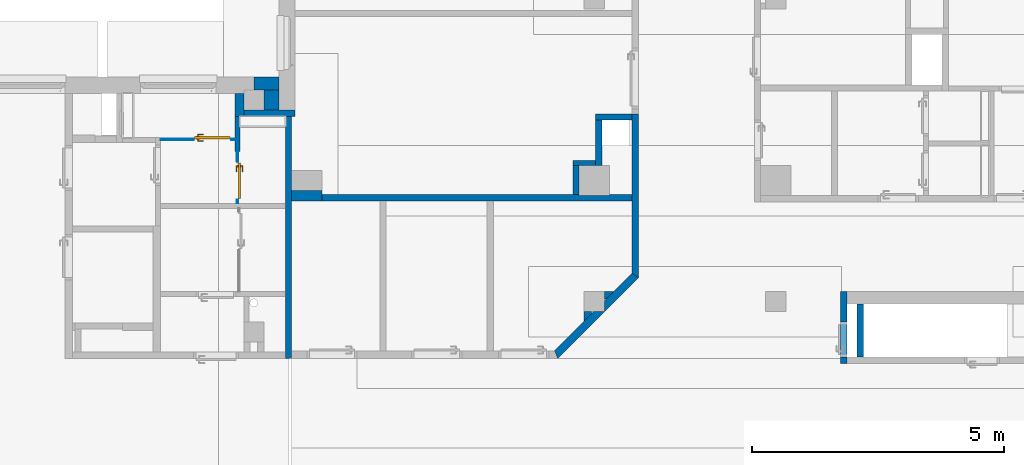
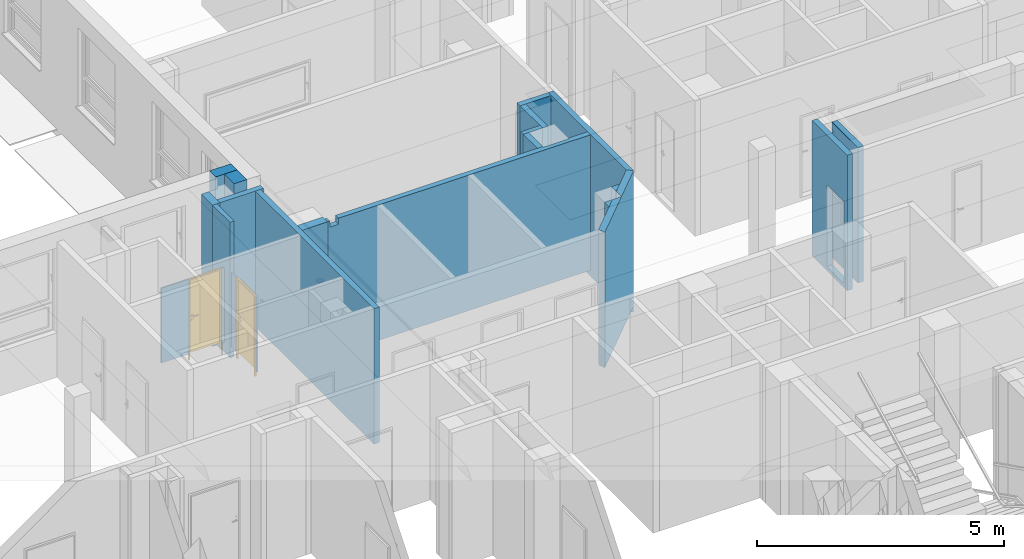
# One storey, part 37 of 140: 20 walls, 2 doors, 4 openings.
"""IFC4 building model written with IfcOpenShell, lengths in metres."""

from ifc_helpers import new_model, entity, si_unit, converted_unit, derived_unit, frame, frame_2d, origin, origin_with_axes, place, context, subcontext, project, spatial, polyline, rectangle, outline, extrude, closed_shell, open_shell, surface_model, source, transform, mapped, material, layer, layer_set, layer_usage, type_object, element, fill, save


model = new_model("IFC4")

# Units and contexts
model_context = context("Model", 3, precision=1e-05, world=origin())
body_context = subcontext(model_context, "Body", "Model", "MODEL_VIEW")
ifc_project = project(units=[si_unit("LENGTHUNIT", "METRE"), si_unit("AREAUNIT", "SQUARE_METRE"), si_unit("VOLUMEUNIT", "CUBIC_METRE"), si_unit("MASSUNIT", "GRAM", prefix="KILO"), converted_unit("PLANEANGLEUNIT", "DEGREE", entity("IfcPlaneAngleMeasure", 0.0174532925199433), si_unit("PLANEANGLEUNIT", "RADIAN"), dimensions=[0, 0, 0, 0, 0, 0, 0]), derived_unit("THERMALTRANSMITTANCEUNIT", [(si_unit("POWERUNIT", "WATT"), 1), (si_unit("THERMODYNAMICTEMPERATUREUNIT", "KELVIN"), -1), (si_unit("LENGTHUNIT", "METRE"), -2)]), derived_unit("VOLUMETRICFLOWRATEUNIT", [(si_unit("LENGTHUNIT", "METRE"), 3), (converted_unit("TIMEUNIT", "hour", entity("IfcTimeMeasure", 3600.0), si_unit("TIMEUNIT", "SECOND"), dimensions=[0, 0, 1, 0, 0, 0, 0]), -1), (si_unit("LENGTHUNIT", "METRE"), -1)])], contexts=[model_context])

# Site, building, storey
site_placement = place(None, origin())
site = spatial("IfcSite", under=ifc_project, at=site_placement, Name="3. ASŘ", CompositionType="ELEMENT")
building_placement = place(site_placement, origin())
building = spatial("IfcBuilding", under=site, at=building_placement, Name="Pavilon C", CompositionType="ELEMENT")
storey_placement = place(building_placement, origin())
storey = spatial("IfcBuildingStorey", under=building, at=storey_placement, Name="Půdorys 1.NP", CompositionType="ELEMENT", Elevation=0.0)

# Walls
ifc_material_1 = material(Name="PÓROBETONOVÉ ZDIVO")
ifc_layer_1 = layer(ifc_material_1, 0.3)
ifc_layer_set_1 = layer_set([ifc_layer_1])
ifc_layer_usage_1 = layer_usage(ifc_layer_set_1, "AXIS2", "POSITIVE", 0.0)
wall_1_placement = place(storey_placement, frame((24.2, 15.0, -0.1), z_axis=(0.0, 0.0, 1.0), x_axis=(0.0, -1.0, 0.0)))
element("IfcWall", 1, at=wall_1_placement, inside=storey, material=ifc_layer_usage_1, Name="PÓROBETONOVÉ ZDIVO", context=body_context, shape_type="SweptSolid", body=[
    extrude(rectangle(XDim=0.4, YDim=0.3, at=frame_2d((0.2, 0.15), x_axis=(1.0, 0.0))), origin_with_axes(), (0.0, 0.0, 1.0), 3.6),
])
ifc_material_2 = material(Name="PÓROBETONOVÉ ZDIVO")
ifc_layer_2 = layer(ifc_material_2, 0.25)
ifc_layer_set_2 = layer_set([ifc_layer_2])
ifc_layer_usage_2 = layer_usage(ifc_layer_set_2, "AXIS2", "POSITIVE", 0.0)
wall_2_placement = place(storey_placement, frame((24.0, 15.0, -0.1)))
element("IfcWall", 2, at=wall_2_placement, inside=storey, material=ifc_layer_usage_2, Name="PÓROBETONOVÉ ZDIVO", context=body_context, shape_type="SweptSolid", body=[
    extrude(rectangle(XDim=0.500000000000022, YDim=0.25, at=frame_2d((0.250000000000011, 0.125), x_axis=(1.0, 0.0))), origin_with_axes(), (0.0, 0.0, 1.0), 3.6),
])
ifc_material_3 = material(Name="ZDIVO Z CDm")
ifc_layer_3 = layer(ifc_material_3, 0.125)
ifc_layer_set_3 = layer_set([ifc_layer_3])
ifc_layer_usage_3 = layer_usage(ifc_layer_set_3, "AXIS2", "POSITIVE", 0.0)
wall_3_placement = place(storey_placement, frame((24.82, 14.6, -0.1), z_axis=(0.0, 0.0, 1.0), x_axis=(-1.0, 0.0, 0.0)))
element("IfcWall", 3, at=wall_3_placement, inside=storey, material=ifc_layer_usage_3, Name="ZDIVO Z CDm", context=body_context, shape_type="SweptSolid", body=[
    extrude(rectangle(XDim=1.01999999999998, YDim=0.125, at=frame_2d((0.509999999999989, 0.0625), x_axis=(1.0, 0.0))), origin_with_axes(), (0.0, 0.0, 1.0), 3.35),
])
ifc_material_4 = material(Name="ZDIVO Z CDm")
ifc_layer_4 = layer(ifc_material_4, 0.125)
ifc_layer_set_4 = layer_set([ifc_layer_4])
ifc_layer_usage_4 = layer_usage(ifc_layer_set_4, "AXIS2", "POSITIVE", 0.0)
wall_4_placement = place(storey_placement, frame((24.75, 9.675, -0.1), z_axis=(0.0, 0.0, 1.0), x_axis=(0.0, 1.0, 0.0)))
element("IfcWall", 4, at=wall_4_placement, inside=storey, material=ifc_layer_usage_4, Name="ZDIVO Z CDm", context=body_context, shape_type="SweptSolid", body=[
    extrude(rectangle(XDim=4.8, YDim=0.125, at=frame_2d((2.4, 0.0625), x_axis=(1.0, 0.0))), origin_with_axes(), (0.0, 0.0, 1.0), 3.35),
])
ifc_material_5 = material(Name="YTONG 100")
ifc_layer_5 = layer(ifc_material_5, 0.1)
ifc_layer_set_5 = layer_set([ifc_layer_5])
ifc_layer_usage_5 = layer_usage(ifc_layer_set_5, "AXIS2", "POSITIVE", 0.0)
wall_5_placement = place(storey_placement, frame((23.725, 13.775, -0.1), z_axis=(0.0, 0.0, 1.0), x_axis=(0.0, 1.0, 0.0)))
element("IfcWall", 5, at=wall_5_placement, inside=storey, material=ifc_layer_usage_5, Name="YTONG 100", context=body_context, shape_type="SweptSolid", body=[
    extrude(rectangle(XDim=0.7, YDim=0.1, at=frame_2d((0.35, 0.05), x_axis=(1.0, 0.0))), origin_with_axes(), (0.0, 0.0, 1.0), 3.35),
])
ifc_material_6 = material(Name="YTONG")
ifc_layer_6 = layer(ifc_material_6, 0.175)
ifc_layer_set_6 = layer_set([ifc_layer_6])
ifc_layer_usage_6 = layer_usage(ifc_layer_set_6, "AXIS2", "POSITIVE", 0.0)
wall_6_placement = place(storey_placement, frame((23.625, 14.93, -0.25), z_axis=(0.0, 0.0, 1.0), x_axis=(0.0, -1.0, 0.0)))
element("IfcWall", 6, at=wall_6_placement, inside=storey, material=ifc_layer_usage_6, Name="YTONG", context=body_context, shape_type="SweptSolid", body=[
    extrude(rectangle(XDim=0.455000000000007, YDim=0.175, at=frame_2d((0.227500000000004, 0.0875), x_axis=(1.0, 0.0))), origin_with_axes(), (0.0, 0.0, 1.0), 3.5),
])

# Wall, opening, door
ifc_material_7 = material(Name="SANITÁRNÍ WC PŘÍČKA")
ifc_layer_7 = layer(ifc_material_7, 0.032)
ifc_layer_set_7 = layer_set([ifc_layer_7])
ifc_layer_usage_7 = layer_usage(ifc_layer_set_7, "AXIS2", "POSITIVE", -0.016)
wall_7_placement = place(storey_placement, frame((23.659, 13.775, 0.15), z_axis=(0.0, 0.0, 1.0), x_axis=(0.0, -1.0, 0.0)))
wall_7 = element("IfcWall", 7, at=wall_7_placement, inside=storey, material=ifc_layer_usage_7, Name="SANITARNI WC PRICKA", context=body_context, shape_type="SweptSolid", body=[
    extrude(rectangle(XDim=1.02499999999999, YDim=0.032, at=frame_2d((0.512499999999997, 0.016), x_axis=(1.0, 0.0))), origin_with_axes(), (0.0, 0.0, 1.0), 1.85),
])
opening_1_placement = place(wall_7_placement, frame((0.954999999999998, 0.032, -0.15), z_axis=(0.0, -1.0, 0.0), x_axis=(0.0, 0.0, 1.0)))
opening_1 = element("IfcOpeningElement", 8, at=opening_1_placement, cuts=wall_7, Name="Dveřní otvor", ObjectType="Opening", context=body_context, shape_type="SweptSolid", body=[
    extrude(outline(polyline([(0.0, 0.76), (2.0, 0.76), (2.0, 0.0), (0.0, 0.0), (0.0, 0.76)])), origin_with_axes(), (0.0, 0.0, 1.0), 0.032),
])
door_type_1 = type_object("IfcDoorType", Name="D101", OperationType="NOTDEFINED", ParameterTakesPrecedence=False, PredefinedType="DOOR")
shared_shape = source(origin_with_axes(), body_context, "Body", "SurfaceModel", [
    surface_model("IfcShellBasedSurfaceModel", [(0.0, 0.0500000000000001, 2.0), (0.0, 0.0499999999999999, -1.95943487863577e-18), (0.03, 0.0499999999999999, -1.95943487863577e-18), (0.03, 0.0500000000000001, 2.0), (0.0, 0.0179999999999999, 1.95943487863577e-18), (0.0, 0.0180000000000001, 2.0), (0.03, 0.0180000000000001, 2.0), (0.03, 0.0179999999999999, 1.95943487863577e-18)], [closed_shell([[[0, 1, 2, 3]], [[4, 5, 6, 7]], [[1, 0, 5, 4]], [[2, 1, 4, 7]], [[3, 2, 7, 6]], [[0, 3, 6, 5]]], orient=[[False], [False], [False], [False], [False], [False]])]),
    surface_model("IfcShellBasedSurfaceModel", [(0.73, 0.0500000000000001, 2.0), (0.73, 0.0499999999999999, -1.95943487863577e-18), (0.76, 0.0499999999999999, -1.95943487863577e-18), (0.76, 0.0500000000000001, 2.0), (0.73, 0.0179999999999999, 1.95943487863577e-18), (0.73, 0.0180000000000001, 2.0), (0.76, 0.0180000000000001, 2.0), (0.76, 0.0179999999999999, 1.95943487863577e-18)], [closed_shell([[[0, 1, 2, 3]], [[4, 5, 6, 7]], [[1, 0, 5, 4]], [[2, 1, 4, 7]], [[3, 2, 7, 6]], [[0, 3, 6, 5]]], orient=[[False], [False], [False], [False], [False], [False]])]),
    surface_model("IfcShellBasedSurfaceModel", [(0.03, 0.0500000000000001, 2.0), (0.03, 0.0500000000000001, 1.97), (0.73, 0.0500000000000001, 1.97), (0.73, 0.0500000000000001, 2.0), (0.03, 0.0180000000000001, 1.97), (0.03, 0.0180000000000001, 2.0), (0.73, 0.0180000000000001, 2.0), (0.73, 0.0180000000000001, 1.97)], [closed_shell([[[0, 1, 2, 3]], [[4, 5, 6, 7]], [[1, 0, 5, 4]], [[2, 1, 4, 7]], [[3, 2, 7, 6]], [[0, 3, 6, 5]]], orient=[[False], [False], [False], [False], [False], [False]])]),
    surface_model("IfcShellBasedSurfaceModel", [(0.03, 0.0900000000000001, 1.97), (0.03, 0.0899999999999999, 0.15), (0.73, 0.0899999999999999, 0.15), (0.73, 0.0900000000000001, 1.97), (0.03, 0.0499999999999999, 0.15), (0.03, 0.0500000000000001, 1.97), (0.73, 0.0500000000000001, 1.97), (0.73, 0.0499999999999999, 0.15)], [closed_shell([[[0, 1, 2, 3]], [[4, 5, 6, 7]], [[1, 0, 5, 4]], [[2, 1, 4, 7]], [[3, 2, 7, 6]], [[0, 3, 6, 5]]], orient=[[False], [False], [False], [False], [False], [False]])]),
    surface_model("IfcShellBasedSurfaceModel", [(0.688815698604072, 0.05, 0.93625), (0.6925, 0.05, 0.95), (0.688815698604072, 0.05, 0.96375), (0.67875, 0.05, 0.973815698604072), (0.665, 0.05, 0.9775), (0.65125, 0.05, 0.973815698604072), (0.641184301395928, 0.05, 0.96375), (0.6375, 0.05, 0.95), (0.641184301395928, 0.05, 0.93625), (0.65125, 0.05, 0.926184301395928), (0.665, 0.05, 0.9225), (0.67875, 0.05, 0.926184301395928), (0.6925, 0.0375, 0.95), (0.688815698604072, 0.0375, 0.93625), (0.67875, 0.0375, 0.926184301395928), (0.665, 0.0375, 0.9225), (0.65125, 0.0375, 0.926184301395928), (0.641184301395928, 0.0375, 0.93625), (0.6375, 0.0375, 0.95), (0.641184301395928, 0.0375, 0.96375), (0.65125, 0.0375, 0.973815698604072), (0.665, 0.0375, 0.9775), (0.67875, 0.0375, 0.973815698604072), (0.688815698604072, 0.0375, 0.96375)], [closed_shell([[[0, 1, 2, 3, 4, 5, 6, 7, 8, 9, 10, 11]], [[12, 13, 14, 15, 16, 17, 18, 19, 20, 21, 22, 23]], [[1, 0, 13, 12]], [[2, 1, 12, 23]], [[3, 2, 23, 22]], [[4, 3, 22, 21]], [[5, 4, 21, 20]], [[6, 5, 20, 19]], [[7, 6, 19, 18]], [[8, 7, 18, 17]], [[9, 8, 17, 16]], [[10, 9, 16, 15]], [[11, 10, 15, 14]], [[0, 11, 14, 13]]], orient=[[False], [False], [False], [False], [False], [False], [False], [False], [False], [False], [False], [False], [False], [False]])]),
    surface_model("IfcShellBasedSurfaceModel", [(0.688815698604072, 0.05, 1.03625), (0.6925, 0.05, 1.05), (0.688815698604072, 0.05, 1.06375), (0.67875, 0.05, 1.07381569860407), (0.665, 0.05, 1.0775), (0.65125, 0.05, 1.07381569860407), (0.641184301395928, 0.05, 1.06375), (0.6375, 0.05, 1.05), (0.641184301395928, 0.05, 1.03625), (0.65125, 0.05, 1.02618430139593), (0.665, 0.05, 1.0225), (0.67875, 0.05, 1.02618430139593), (0.6925, 0.0375, 1.05), (0.688815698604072, 0.0375, 1.03625), (0.67875, 0.0375, 1.02618430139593), (0.665, 0.0375, 1.0225), (0.65125, 0.0375, 1.02618430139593), (0.641184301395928, 0.0375, 1.03625), (0.6375, 0.0375, 1.05), (0.641184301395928, 0.0375, 1.06375), (0.65125, 0.0375, 1.07381569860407), (0.665, 0.0375, 1.0775), (0.67875, 0.0375, 1.07381569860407), (0.688815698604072, 0.0375, 1.06375)], [closed_shell([[[0, 1, 2, 3, 4, 5, 6, 7, 8, 9, 10, 11]], [[12, 13, 14, 15, 16, 17, 18, 19, 20, 21, 22, 23]], [[1, 0, 13, 12]], [[2, 1, 12, 23]], [[3, 2, 23, 22]], [[4, 3, 22, 21]], [[5, 4, 21, 20]], [[6, 5, 20, 19]], [[7, 6, 19, 18]], [[8, 7, 18, 17]], [[9, 8, 17, 16]], [[10, 9, 16, 15]], [[11, 10, 15, 14]], [[0, 11, 14, 13]]], orient=[[False], [False], [False], [False], [False], [False], [False], [False], [False], [False], [False], [False], [False], [False]])]),
    surface_model("IfcShellBasedSurfaceModel", [(0.665, 0.05, 1.06), (0.66, 0.05, 1.05866025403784), (0.656339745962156, 0.05, 1.055), (0.655, 0.05, 1.05), (0.656339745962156, 0.05, 1.045), (0.66, 0.05, 1.04133974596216), (0.665, 0.05, 1.04), (0.67, 0.05, 1.04133974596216), (0.673660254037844, 0.05, 1.045), (0.675, 0.05, 1.05), (0.673660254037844, 0.05, 1.055), (0.67, 0.05, 1.05866025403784), (0.67, 0.00500000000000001, 1.05866025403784), (0.665, 0.01, 1.06), (0.673660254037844, 0.00133974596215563, 1.055), (0.675, 1.4210854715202e-17, 1.05), (0.673660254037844, 0.00133974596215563, 1.045), (0.67, 0.00500000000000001, 1.04133974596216), (0.665, 0.01, 1.04), (0.66, 0.015, 1.04133974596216), (0.656339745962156, 0.0186602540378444, 1.045), (0.655, 0.02, 1.05), (0.656339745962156, 0.0186602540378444, 1.055), (0.66, 0.015, 1.05866025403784), (0.55, 0.005, 1.05866025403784), (0.55, 0.01, 1.06), (0.55, 0.00133974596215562, 1.055), (0.55, 0.0, 1.05), (0.55, 0.00133974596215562, 1.045), (0.55, 0.005, 1.04133974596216), (0.55, 0.01, 1.04), (0.55, 0.015, 1.04133974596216), (0.55, 0.0186602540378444, 1.045), (0.55, 0.02, 1.05), (0.55, 0.0186602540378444, 1.055), (0.55, 0.015, 1.05866025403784)], [open_shell([[[0, 1, 2, 3, 4, 5, 6, 7, 8, 9, 10, 11]], [[0, 11, 12, 13]], [[11, 10, 14, 12]], [[10, 9, 15, 14]], [[9, 8, 16, 15]], [[8, 7, 17, 16]], [[7, 6, 18, 17]], [[6, 5, 19, 18]], [[5, 4, 20, 19]], [[4, 3, 21, 20]], [[3, 2, 22, 21]], [[2, 1, 23, 22]], [[1, 0, 13, 23]], [[13, 12, 24, 25]], [[12, 14, 26, 24]], [[14, 15, 27, 26]], [[15, 16, 28, 27]], [[16, 17, 29, 28]], [[17, 18, 30, 29]], [[18, 19, 31, 30]], [[19, 20, 32, 31]], [[20, 21, 33, 32]], [[21, 22, 34, 33]], [[22, 23, 35, 34]], [[23, 13, 25, 35]]], orient=[[False], [False], [False], [False], [False], [False], [False], [False], [False], [False], [False], [False], [False], [False], [False], [False], [False], [False], [False], [False], [False], [False], [False], [False], [False]])]),
    surface_model("IfcShellBasedSurfaceModel", [(0.688815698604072, 0.09, 0.93625), (0.67875, 0.09, 0.926184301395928), (0.665, 0.09, 0.9225), (0.65125, 0.09, 0.926184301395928), (0.641184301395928, 0.09, 0.93625), (0.6375, 0.09, 0.95), (0.641184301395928, 0.09, 0.96375), (0.65125, 0.09, 0.973815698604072), (0.665, 0.09, 0.9775), (0.67875, 0.09, 0.973815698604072), (0.688815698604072, 0.09, 0.96375), (0.6925, 0.09, 0.95), (0.6925, 0.1025, 0.95), (0.688815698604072, 0.1025, 0.96375), (0.67875, 0.1025, 0.973815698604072), (0.665, 0.1025, 0.9775), (0.65125, 0.1025, 0.973815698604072), (0.641184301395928, 0.1025, 0.96375), (0.6375, 0.1025, 0.95), (0.641184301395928, 0.1025, 0.93625), (0.65125, 0.1025, 0.926184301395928), (0.665, 0.1025, 0.9225), (0.67875, 0.1025, 0.926184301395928), (0.688815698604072, 0.1025, 0.93625)], [closed_shell([[[0, 1, 2, 3, 4, 5, 6, 7, 8, 9, 10, 11]], [[12, 13, 14, 15, 16, 17, 18, 19, 20, 21, 22, 23]], [[11, 12, 23, 0]], [[10, 13, 12, 11]], [[9, 14, 13, 10]], [[8, 15, 14, 9]], [[7, 16, 15, 8]], [[6, 17, 16, 7]], [[5, 18, 17, 6]], [[4, 19, 18, 5]], [[3, 20, 19, 4]], [[2, 21, 20, 3]], [[1, 22, 21, 2]], [[0, 23, 22, 1]]], orient=[[False], [False], [False], [False], [False], [False], [False], [False], [False], [False], [False], [False], [False], [False]])]),
    surface_model("IfcShellBasedSurfaceModel", [(0.688815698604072, 0.09, 1.03625), (0.67875, 0.09, 1.02618430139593), (0.665, 0.09, 1.0225), (0.65125, 0.09, 1.02618430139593), (0.641184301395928, 0.09, 1.03625), (0.6375, 0.09, 1.05), (0.641184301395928, 0.09, 1.06375), (0.65125, 0.09, 1.07381569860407), (0.665, 0.09, 1.0775), (0.67875, 0.09, 1.07381569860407), (0.688815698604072, 0.09, 1.06375), (0.6925, 0.09, 1.05), (0.6925, 0.1025, 1.05), (0.688815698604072, 0.1025, 1.06375), (0.67875, 0.1025, 1.07381569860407), (0.665, 0.1025, 1.0775), (0.65125, 0.1025, 1.07381569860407), (0.641184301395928, 0.1025, 1.06375), (0.6375, 0.1025, 1.05), (0.641184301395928, 0.1025, 1.03625), (0.65125, 0.1025, 1.02618430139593), (0.665, 0.1025, 1.0225), (0.67875, 0.1025, 1.02618430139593), (0.688815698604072, 0.1025, 1.03625)], [closed_shell([[[0, 1, 2, 3, 4, 5, 6, 7, 8, 9, 10, 11]], [[12, 13, 14, 15, 16, 17, 18, 19, 20, 21, 22, 23]], [[11, 12, 23, 0]], [[10, 13, 12, 11]], [[9, 14, 13, 10]], [[8, 15, 14, 9]], [[7, 16, 15, 8]], [[6, 17, 16, 7]], [[5, 18, 17, 6]], [[4, 19, 18, 5]], [[3, 20, 19, 4]], [[2, 21, 20, 3]], [[1, 22, 21, 2]], [[0, 23, 22, 1]]], orient=[[False], [False], [False], [False], [False], [False], [False], [False], [False], [False], [False], [False], [False], [False]])]),
    surface_model("IfcShellBasedSurfaceModel", [(0.665, 0.09, 1.06), (0.67, 0.09, 1.05866025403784), (0.673660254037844, 0.09, 1.055), (0.675, 0.09, 1.05), (0.673660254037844, 0.09, 1.045), (0.67, 0.09, 1.04133974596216), (0.665, 0.09, 1.04), (0.66, 0.09, 1.04133974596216), (0.656339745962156, 0.09, 1.045), (0.655, 0.09, 1.05), (0.656339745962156, 0.09, 1.055), (0.66, 0.09, 1.05866025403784), (0.665, 0.13, 1.06), (0.67, 0.135, 1.05866025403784), (0.673660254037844, 0.138660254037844, 1.055), (0.675, 0.14, 1.05), (0.673660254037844, 0.138660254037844, 1.045), (0.67, 0.135, 1.04133974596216), (0.665, 0.13, 1.04), (0.66, 0.125, 1.04133974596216), (0.656339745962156, 0.121339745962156, 1.045), (0.655, 0.12, 1.05), (0.656339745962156, 0.121339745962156, 1.055), (0.66, 0.125, 1.05866025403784), (0.55, 0.13, 1.06), (0.55, 0.135, 1.05866025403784), (0.55, 0.138660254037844, 1.055), (0.55, 0.14, 1.05), (0.55, 0.138660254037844, 1.045), (0.55, 0.135, 1.04133974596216), (0.55, 0.13, 1.04), (0.55, 0.125, 1.04133974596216), (0.55, 0.121339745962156, 1.045), (0.55, 0.12, 1.05), (0.55, 0.121339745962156, 1.055), (0.55, 0.125, 1.05866025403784)], [open_shell([[[0, 1, 2, 3, 4, 5, 6, 7, 8, 9, 10, 11]], [[0, 12, 13, 1]], [[1, 13, 14, 2]], [[2, 14, 15, 3]], [[3, 15, 16, 4]], [[4, 16, 17, 5]], [[5, 17, 18, 6]], [[6, 18, 19, 7]], [[7, 19, 20, 8]], [[8, 20, 21, 9]], [[9, 21, 22, 10]], [[10, 22, 23, 11]], [[11, 23, 12, 0]], [[12, 24, 25, 13]], [[13, 25, 26, 14]], [[14, 26, 27, 15]], [[15, 27, 28, 16]], [[16, 28, 29, 17]], [[17, 29, 30, 18]], [[18, 30, 31, 19]], [[19, 31, 32, 20]], [[20, 32, 33, 21]], [[21, 33, 34, 22]], [[22, 34, 35, 23]], [[23, 35, 24, 12]]], orient=[[False], [False], [False], [False], [False], [False], [False], [False], [False], [False], [False], [False], [False], [False], [False], [False], [False], [False], [False], [False], [False], [False], [False], [False], [False]])]),
])
door_1_placement = place(opening_1_placement, frame((0.0, -3.63797880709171e-15, 0.0500000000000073), z_axis=(1.0, 0.0, 0.0), x_axis=(0.0, 1.0, -2.44929359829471e-16)))
door_1 = element("IfcDoor", 9, at=door_1_placement, inside=storey, type_object=door_type_1, Name="D101", OverallHeight=2.0, OverallWidth=0.76, context=body_context, shape_type="MappedRepresentation", body=[
    mapped(shared_shape, transform((0.0, 0.0, 0.0), x_axis=(1.0, 0.0, 0.0), y_axis=(0.0, -1.0, 0.0), z_axis=(0.0, 0.0, 1.0), scale=1.0)),
])
fill(opening_1, door_1)

ifc_material_8 = material(Name="SANITÁRNÍ WC PŘÍČKA")
ifc_layer_8 = layer(ifc_material_8, 0.032)
ifc_layer_set_8 = layer_set([ifc_layer_8])
ifc_layer_usage_8 = layer_usage(ifc_layer_set_8, "AXIS2", "POSITIVE", 0.0)
wall_8_placement = place(storey_placement, frame((23.625, 14.03, 0.15), z_axis=(0.0, 0.0, 1.0), x_axis=(-1.0, 0.0, 0.0)))
wall_8 = element("IfcWall", 10, at=wall_8_placement, inside=storey, material=ifc_layer_usage_8, Name="SANITARNI WC PRICKA", context=body_context, shape_type="SweptSolid", body=[
    extrude(rectangle(XDim=1.47499999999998, YDim=0.032, at=frame_2d((0.737499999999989, 0.016), x_axis=(1.0, 0.0))), origin_with_axes(), (0.0, 0.0, 1.0), 1.85),
])
opening_2_placement = place(wall_8_placement, frame((0.07, 0.0, -0.15), z_axis=(0.0, 1.0, 0.0), x_axis=(0.0, 0.0, 1.0)))
opening_2 = element("IfcOpeningElement", 11, at=opening_2_placement, cuts=wall_8, Name="Dveřní otvor", ObjectType="Opening", context=body_context, shape_type="SweptSolid", body=[
    extrude(outline(polyline([(0.0, 0.76), (2.0, 0.76), (2.0, 0.0), (0.0, 0.0), (0.0, 0.76)])), origin_with_axes(), (0.0, 0.0, 1.0), 0.032),
])
door_type_2 = type_object("IfcDoorType", Name="D101", OperationType="NOTDEFINED", ParameterTakesPrecedence=False, PredefinedType="DOOR")
door_2_placement = place(opening_2_placement, frame((0.0, 0.0, 0.05), z_axis=(1.0, 0.0, 0.0), x_axis=(0.0, 1.0, -2.44929359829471e-16)))
door_2 = element("IfcDoor", 12, at=door_2_placement, inside=storey, type_object=door_type_2, Name="D101", OverallHeight=2.0, OverallWidth=0.76, context=body_context, shape_type="MappedRepresentation", body=[
    mapped(shared_shape, transform((0.0, 0.0, 0.0), x_axis=(1.0, 0.0, 0.0), y_axis=(0.0, -1.0, 0.0), z_axis=(0.0, 0.0, 1.0), scale=1.0)),
])
fill(opening_2, door_2)

# Wall
ifc_material_9 = material(Name="ZDIVO Z CDm")
ifc_layer_9 = layer(ifc_material_9, 0.2)
ifc_layer_set_9 = layer_set([ifc_layer_9])
ifc_layer_usage_9 = layer_usage(ifc_layer_set_9, "AXIS2", "POSITIVE", 0.0)
wall_9_placement = place(storey_placement, frame((25.35, 13.0, -0.1), z_axis=(0.0, 0.0, 1.0), x_axis=(-1.0, 0.0, 0.0)))
element("IfcWall", 13, at=wall_9_placement, inside=storey, material=ifc_layer_usage_9, Name="ZDIVO Z CDm", context=body_context, shape_type="SweptSolid", body=[
    extrude(rectangle(XDim=0.6, YDim=0.2, at=frame_2d((0.3, 0.1), x_axis=(1.0, 0.0))), origin_with_axes(), (0.0, 0.0, 1.0), 3.35),
])

# Wall, opening
ifc_material_10 = material(Name="ZDIVO Z CDm")
ifc_layer_10 = layer(ifc_material_10, 0.125)
ifc_layer_set_10 = layer_set([ifc_layer_10])
ifc_layer_usage_10 = layer_usage(ifc_layer_set_10, "AXIS2", "POSITIVE", 0.0)
wall_10_placement = place(storey_placement, frame((31.5, 12.925, -0.1), z_axis=(0.0, 0.0, 1.0), x_axis=(-1.0, 0.0, 0.0)))
wall_10 = element("IfcWall", 14, at=wall_10_placement, inside=storey, material=ifc_layer_usage_10, Name="ZDIVO Z CDm", context=body_context, shape_type="SweptSolid", body=[
    extrude(outline(polyline([(-5.1, -0.125), (0.0, -0.125), (0.0, 0.0), (-6.15, 0.0), (-6.15, -0.125), (-5.7, -0.125), (-5.7, -0.1), (-5.1, -0.1), (-5.1, -0.125)])), frame((6.15, 0.125, 0.0), z_axis=(0.0, 0.0, 1.0), x_axis=(1.0, 0.0, 0.0)), (0.0, 0.0, 1.0), 3.35),
])
opening_3_placement = place(wall_10_placement, frame((5.9, 0.0, 3.2), z_axis=(0.0, 1.0, 0.0), x_axis=(0.0, 0.0, 1.0)))
element("IfcOpeningElement", 15, at=opening_3_placement, cuts=wall_10, Name="CHL", ObjectType="Opening", context=body_context, shape_type="SweptSolid", body=[
    extrude(outline(polyline([(0.0, 0.2), (0.15, 0.2), (0.15, 0.0), (0.0, 0.0), (0.0, 0.2)])), origin_with_axes(), (0.0, 0.0, 1.0), 0.125),
])

ifc_material_11 = material(Name="ZDIVO Z CDm")
ifc_layer_11 = layer(ifc_material_11, 0.125)
ifc_layer_set_11 = layer_set([ifc_layer_11])
ifc_layer_usage_11 = layer_usage(ifc_layer_set_11, "AXIS2", "POSITIVE", 0.0)
wall_11_placement = place(storey_placement, frame((35.7625, 9.57499999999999, -0.1), z_axis=(0.0, 0.0, 1.0), x_axis=(0.0, 1.0, 0.0)))
wall_11 = element("IfcWall", 16, at=wall_11_placement, inside=storey, material=ifc_layer_usage_11, Name="ZDIVO Z CDm", context=body_context, shape_type="SweptSolid", body=[
    extrude(rectangle(XDim=1.425, YDim=0.125, at=frame_2d((0.7125, 0.0625), x_axis=(1.0, 0.0))), origin_with_axes(), (0.0, 0.0, 1.0), 3.35),
])
opening_4_placement = place(wall_11_placement, frame((0.824999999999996, 0.125, 0.1), z_axis=(0.0, -1.0, 0.0), x_axis=(0.0, 0.0, 1.0)))
element("IfcOpeningElement", 17, at=opening_4_placement, cuts=wall_11, Name="Dveřní otvor", ObjectType="Opening", context=body_context, shape_type="SweptSolid", body=[
    extrude(outline(polyline([(0.0, 0.7), (2.02, 0.7), (2.02, 0.0), (0.0, 0.0), (0.0, 0.7)])), origin_with_axes(), (0.0, 0.0, 1.0), 0.125),
])

# Walls
ifc_material_12 = material(Name="ZDIVO Z CDm")
ifc_layer_12 = layer(ifc_material_12, 0.125)
ifc_layer_set_12 = layer_set([ifc_layer_12])
ifc_layer_usage_12 = layer_usage(ifc_layer_set_12, "AXIS2", "POSITIVE", 0.0)
wall_12_placement = place(storey_placement, frame((35.9625, 10.75, -0.1), z_axis=(0.0, 0.0, 1.0), x_axis=(0.0, -1.0, 0.0)))
element("IfcWall", 18, at=wall_12_placement, inside=storey, material=ifc_layer_usage_12, Name="ZDIVO Z CDm", context=body_context, shape_type="SweptSolid", body=[
    extrude(rectangle(XDim=1.05, YDim=0.125, at=frame_2d((0.525, 0.0625), x_axis=(1.0, 0.0))), origin_with_axes(), (0.0, 0.0, 1.0), 3.35),
])
ifc_material_13 = material(Name="YTONG 150")
wall_13_placement = place(storey_placement, frame((30.025, 9.675, -0.1), z_axis=(0.0, 0.0, 1.0), x_axis=(0.707106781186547, 0.707106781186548, 0.0)))
element("IfcWall", 19, at=wall_13_placement, inside=storey, material=ifc_material_13, Name="YTONG 150", context=body_context, shape_type="SweptSolid", body=[
    extrude(outline(polyline([(0.0439339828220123, -0.0439339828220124), (1.35208152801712, -0.0439339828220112), (1.20208152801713, 0.106066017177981), (0.106066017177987, 0.106066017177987), (0.0439339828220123, -0.0439339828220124)])), frame((-0.0439339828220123, 0.0439339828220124, 0.0), z_axis=(0.0, 0.0, 1.0), x_axis=(1.0, 0.0, 0.0)), (0.0, 0.0, 1.0), 3.35),
    extrude(outline(polyline([(0.149999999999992, 0.149999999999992), (0.0, 0.0), (0.954594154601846, 2.27373675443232e-16), (0.927817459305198, 0.14999999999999), (0.149999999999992, 0.149999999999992)])), frame((1.30814754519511, -2.27373675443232e-16, 0.0), z_axis=(0.0, 0.0, 1.0), x_axis=(1.0, 0.0, 0.0)), (0.0, 0.0, 1.0), 3.35),
])
ifc_material_14 = material(Name="YTONG 150")
ifc_layer_13 = layer(ifc_material_14, 0.149999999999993)
ifc_layer_set_13 = layer_set([ifc_layer_13])
ifc_layer_usage_13 = layer_usage(ifc_layer_set_13, "AXIS2", "POSITIVE", 0.0)
wall_14_placement = place(storey_placement, frame((31.137867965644, 11.0, -0.1), z_axis=(0.0, 0.0, 1.0), x_axis=(-1.0, 0.0, 0.0)))
element("IfcWall", 20, at=wall_14_placement, inside=storey, material=ifc_layer_usage_13, Name="YTONG 150", context=body_context, shape_type="SweptSolid", body=[
    extrude(outline(polyline([(-0.187867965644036, -0.149999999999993), (0.0, -0.149999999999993), (0.0, 0.0), (-0.0378679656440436, 0.0), (-0.187867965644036, -0.149999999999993)])), frame((0.187867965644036, 0.149999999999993, 0.0), z_axis=(0.0, 0.0, 1.0), x_axis=(1.0, 0.0, 0.0)), (0.0, 0.0, 1.0), 3.35),
])
ifc_material_15 = material(Name="YTONG 150")
ifc_layer_14 = layer(ifc_material_15, 0.149999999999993)
ifc_layer_set_14 = layer_set([ifc_layer_14])
ifc_layer_usage_14 = layer_usage(ifc_layer_set_14, "AXIS2", "POSITIVE", 0.0)
wall_15_placement = place(storey_placement, frame((30.55, 10.6, -0.1), z_axis=(0.0, 0.0, 1.0), x_axis=(1.93645510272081e-14, -1.0, 0.0)))
element("IfcWall", 21, at=wall_15_placement, inside=storey, material=ifc_layer_usage_14, Name="YTONG 150", context=body_context, shape_type="SweptSolid", body=[
    extrude(outline(polyline([(-0.187867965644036, 3.63797880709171e-15), (7.0447826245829e-29, 3.63797880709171e-15), (-0.149999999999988, 0.149999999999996), (-0.187867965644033, 0.149999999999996), (-0.187867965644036, 3.63797880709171e-15)])), frame((0.187867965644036, -3.63797880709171e-15, 0.0), z_axis=(0.0, 0.0, 1.0), x_axis=(1.0, 0.0, 0.0)), (0.0, 0.0, 1.0), 3.35),
])
ifc_material_16 = material(Name="ZDIVO Z CDm")
ifc_layer_15 = layer(ifc_material_16, 0.125)
ifc_layer_set_15 = layer_set([ifc_layer_15])
ifc_layer_usage_15 = layer_usage(ifc_layer_set_15, "AXIS2", "POSITIVE", 0.0)
wall_16_placement = place(storey_placement, frame((30.775, 14.4, -0.1)))
element("IfcWall", 22, at=wall_16_placement, inside=storey, material=ifc_layer_usage_15, Name="ZDIVO Z CDm", context=body_context, shape_type="SweptSolid", body=[
    extrude(rectangle(XDim=0.725, YDim=0.125, at=frame_2d((0.3625, 0.0625), x_axis=(1.0, 0.0))), origin_with_axes(), (0.0, 0.0, 1.0), 3.35),
])
ifc_material_17 = material(Name="ZDIVO Z CDm")
ifc_layer_16 = layer(ifc_material_17, 0.125)
ifc_layer_set_16 = layer_set([ifc_layer_16])
ifc_layer_usage_16 = layer_usage(ifc_layer_set_16, "AXIS2", "POSITIVE", 0.0)
wall_17_placement = place(storey_placement, frame((30.9, 13.5, -0.1), z_axis=(0.0, 0.0, 1.0), x_axis=(0.0, 1.0, 0.0)))
element("IfcWall", 23, at=wall_17_placement, inside=storey, material=ifc_layer_usage_16, Name="ZDIVO Z CDm", context=body_context, shape_type="SweptSolid", body=[
    extrude(rectangle(XDim=0.9, YDim=0.125, at=frame_2d((0.45, 0.0625), x_axis=(1.0, 0.0))), origin_with_axes(), (0.0, 0.0, 1.0), 3.35),
])
ifc_material_18 = material(Name="ZDIVO Z CDm")
ifc_layer_17 = layer(ifc_material_18, 0.125)
ifc_layer_set_17 = layer_set([ifc_layer_17])
ifc_layer_usage_17 = layer_usage(ifc_layer_set_17, "AXIS2", "POSITIVE", 0.0)
wall_18_placement = place(storey_placement, frame((30.45, 12.925, -0.1), z_axis=(0.0, 0.0, 1.0), x_axis=(0.0, 1.0, 0.0)))
element("IfcWall", 24, at=wall_18_placement, inside=storey, material=ifc_layer_usage_17, Name="ZDIVO Z CDm", context=body_context, shape_type="SweptSolid", body=[
    extrude(rectangle(XDim=0.575, YDim=0.125, at=frame_2d((0.2875, 0.0625), x_axis=(1.0, 0.0))), origin_with_axes(), (0.0, 0.0, 1.0), 3.35),
])
ifc_material_19 = material(Name="YTONG 125")
ifc_layer_18 = layer(ifc_material_19, 0.125)
ifc_layer_set_18 = layer_set([ifc_layer_18])
ifc_layer_usage_18 = layer_usage(ifc_layer_set_18, "AXIS2", "POSITIVE", 0.0)
wall_19_placement = place(storey_placement, frame((31.5, 14.525, -0.25), z_axis=(0.0, 0.0, 1.0), x_axis=(0.0, -1.0, 0.0)))
element("IfcWall", 25, at=wall_19_placement, inside=storey, material=ifc_layer_usage_18, Name="YTONG 125", context=body_context, shape_type="SweptSolid", body=[
    extrude(outline(polyline([(-3.25, 0.0), (-0.0871320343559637, 0.0), (0.0, 0.125), (-3.25, 0.125), (-3.25, 0.0)])), frame((3.25, 0.0, 0.0), z_axis=(0.0, 0.0, 1.0), x_axis=(1.0, 0.0, 0.0)), (0.0, 0.0, 1.0), 3.5),
])
ifc_material_20 = material(Name="YTONG 100")
ifc_layer_19 = layer(ifc_material_20, 0.1)
ifc_layer_set_19 = layer_set([ifc_layer_19])
ifc_layer_usage_19 = layer_usage(ifc_layer_set_19, "AXIS2", "POSITIVE", 0.0)
wall_20_placement = place(storey_placement, frame((30.325, 13.5, -0.1)))
element("IfcWall", 26, at=wall_20_placement, inside=storey, material=ifc_layer_usage_19, Name="YTONG 100", context=body_context, shape_type="SweptSolid", body=[
    extrude(rectangle(XDim=0.450000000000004, YDim=0.1, at=frame_2d((0.225000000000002, 0.05), x_axis=(1.0, 0.0))), origin_with_axes(), (0.0, 0.0, 1.0), 3.35),
])

save(model, "model.ifc")
